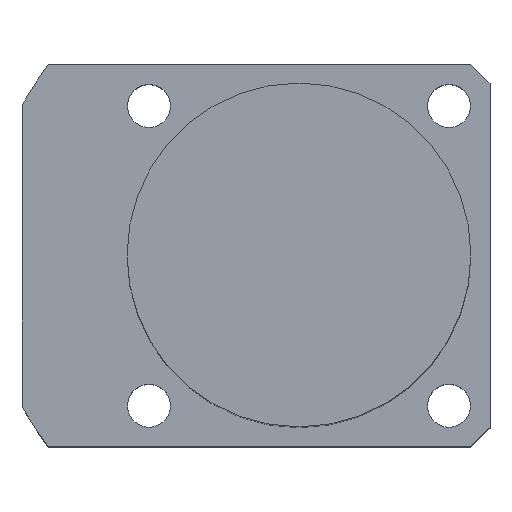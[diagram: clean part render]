
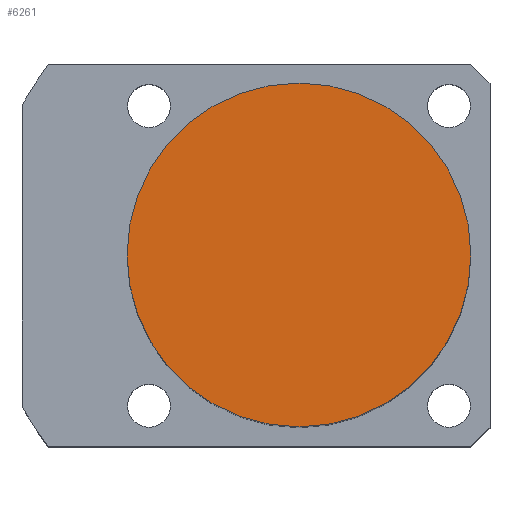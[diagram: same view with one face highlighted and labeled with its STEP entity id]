
A CAD part, top view. The second image highlights one B-rep face of the part: STEP entity #6261.
In plain terms, the highlighted planar face has unit normal (0, 0, 1).
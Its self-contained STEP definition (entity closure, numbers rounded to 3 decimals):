
#6203=CARTESIAN_POINT('',(-0.0,18.0,63.5));
#6204=VERTEX_POINT('',#6203);
#6211=CARTESIAN_POINT('',(18.0,0.0,63.5));
#6212=VERTEX_POINT('',#6211);
#6213=CARTESIAN_POINT('',(0.0,0.0,63.5));
#6214=DIRECTION('',(0.0,0.0,1.0));
#6215=DIRECTION('',(1.0,0.0,0.0));
#6216=AXIS2_PLACEMENT_3D('',#6213,#6214,#6215);
#6217=CIRCLE('',#6216,18.0);
#6218=EDGE_CURVE('no 3731',#6212,#6204,#6217,.T.);
#6220=CARTESIAN_POINT('',(-0.0,-18.0,63.5));
#6221=VERTEX_POINT('',#6220);
#6222=CARTESIAN_POINT('',(0.0,0.0,63.5));
#6223=DIRECTION('',(0.0,0.0,1.0));
#6224=DIRECTION('',(1.0,0.0,0.0));
#6225=AXIS2_PLACEMENT_3D('',#6222,#6223,#6224);
#6226=CIRCLE('',#6225,18.0);
#6227=EDGE_CURVE('no 3737',#6221,#6212,#6226,.T.);
#6245=ORIENTED_EDGE('',*,*,#6218,.T.);
#6246=CARTESIAN_POINT('',(0.0,0.0,63.5));
#6247=DIRECTION('',(0.0,0.0,1.0));
#6248=DIRECTION('',(1.0,0.0,0.0));
#6249=AXIS2_PLACEMENT_3D('',#6246,#6247,#6248);
#6250=CIRCLE('',#6249,18.0);
#6251=EDGE_CURVE('no 3754',#6204,#6221,#6250,.T.);
#6252=ORIENTED_EDGE('',*,*,#6251,.T.);
#6253=ORIENTED_EDGE('',*,*,#6227,.T.);
#6254=EDGE_LOOP('',(#6245,#6252,#6253));
#6255=FACE_OUTER_BOUND('',#6254,.T.);
#6256=CARTESIAN_POINT('',(0.0,0.0,63.5));
#6257=DIRECTION('',(0.0,0.0,1.0));
#6258=DIRECTION('',(1.0,0.0,0.0));
#6259=AXIS2_PLACEMENT_3D('',#6256,#6257,#6258);
#6260=PLANE('',#6259);
#6261=ADVANCED_FACE('no 3747',(#6255),#6260,.T.);
